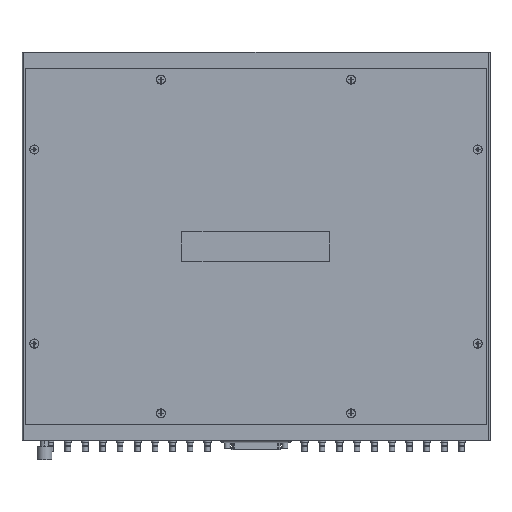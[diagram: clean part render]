
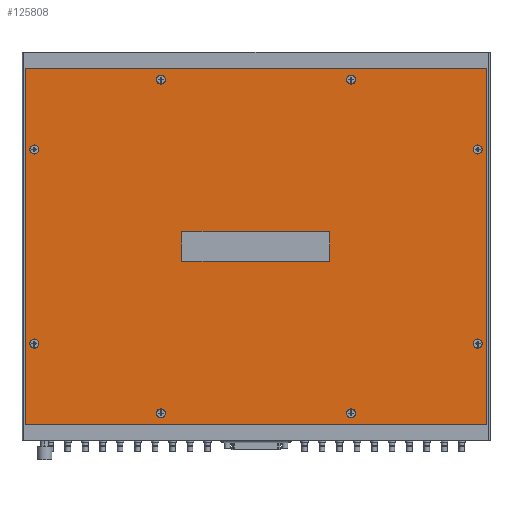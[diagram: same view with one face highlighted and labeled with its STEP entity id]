
A CAD part, front view. The second image highlights one B-rep face of the part: STEP entity #125808.
In plain terms, the highlighted planar face has unit normal (0, -1, 0).
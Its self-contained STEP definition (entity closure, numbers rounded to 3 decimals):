
#44201=DIRECTION('',(0.,0.,-1.));
#44202=VECTOR('',#44201,9.15);
#44203=CARTESIAN_POINT('',(-0.015,-1.71,-0.425));
#44204=LINE('',#44203,#44202);
#44205=DIRECTION('',(-1.,0.,0.));
#44206=VECTOR('',#44205,11.87);
#44207=CARTESIAN_POINT('',(-0.015,-1.71,-9.575));
#44208=LINE('',#44207,#44206);
#44209=DIRECTION('',(0.,0.,1.));
#44210=VECTOR('',#44209,9.15);
#44211=CARTESIAN_POINT('',(-11.885,-1.71,-9.575));
#44212=LINE('',#44211,#44210);
#44213=DIRECTION('',(1.,0.,0.));
#44214=VECTOR('',#44213,11.87);
#44215=CARTESIAN_POINT('',(-11.885,-1.71,-0.425));
#44216=LINE('',#44215,#44214);
#44217=CARTESIAN_POINT('',(-11.663,-1.71,-7.5));
#44218=DIRECTION('',(0.,1.,0.));
#44219=DIRECTION('',(1.,0.,0.));
#44220=AXIS2_PLACEMENT_3D('',#44217,#44218,#44219);
#44222=CARTESIAN_POINT('',(-11.663,-1.71,-7.5));
#44223=DIRECTION('',(0.,1.,0.));
#44224=DIRECTION('',(-1.,0.,0.));
#44225=AXIS2_PLACEMENT_3D('',#44222,#44223,#44224);
#44227=CARTESIAN_POINT('',(-11.663,-1.71,-2.5));
#44228=DIRECTION('',(0.,1.,0.));
#44229=DIRECTION('',(1.,0.,0.));
#44230=AXIS2_PLACEMENT_3D('',#44227,#44228,#44229);
#44232=CARTESIAN_POINT('',(-11.663,-1.71,-2.5));
#44233=DIRECTION('',(0.,1.,0.));
#44234=DIRECTION('',(-1.,0.,0.));
#44235=AXIS2_PLACEMENT_3D('',#44232,#44233,#44234);
#44237=CARTESIAN_POINT('',(-8.4,-1.71,-9.3));
#44238=DIRECTION('',(0.,1.,0.));
#44239=DIRECTION('',(1.,0.,0.));
#44240=AXIS2_PLACEMENT_3D('',#44237,#44238,#44239);
#44242=CARTESIAN_POINT('',(-8.4,-1.71,-9.3));
#44243=DIRECTION('',(0.,1.,0.));
#44244=DIRECTION('',(-1.,0.,0.));
#44245=AXIS2_PLACEMENT_3D('',#44242,#44243,#44244);
#44247=CARTESIAN_POINT('',(-3.5,-1.71,-9.3));
#44248=DIRECTION('',(0.,1.,0.));
#44249=DIRECTION('',(1.,0.,0.));
#44250=AXIS2_PLACEMENT_3D('',#44247,#44248,#44249);
#44252=CARTESIAN_POINT('',(-3.5,-1.71,-9.3));
#44253=DIRECTION('',(0.,1.,0.));
#44254=DIRECTION('',(-1.,0.,0.));
#44255=AXIS2_PLACEMENT_3D('',#44252,#44253,#44254);
#44257=CARTESIAN_POINT('',(-0.238,-1.71,-7.5));
#44258=DIRECTION('',(0.,1.,0.));
#44259=DIRECTION('',(1.,0.,0.));
#44260=AXIS2_PLACEMENT_3D('',#44257,#44258,#44259);
#44262=CARTESIAN_POINT('',(-0.238,-1.71,-7.5));
#44263=DIRECTION('',(0.,1.,0.));
#44264=DIRECTION('',(-1.,0.,0.));
#44265=AXIS2_PLACEMENT_3D('',#44262,#44263,#44264);
#44267=CARTESIAN_POINT('',(-0.238,-1.71,-2.5));
#44268=DIRECTION('',(0.,1.,0.));
#44269=DIRECTION('',(1.,0.,0.));
#44270=AXIS2_PLACEMENT_3D('',#44267,#44268,#44269);
#44272=CARTESIAN_POINT('',(-0.238,-1.71,-2.5));
#44273=DIRECTION('',(0.,1.,0.));
#44274=DIRECTION('',(-1.,0.,0.));
#44275=AXIS2_PLACEMENT_3D('',#44272,#44273,#44274);
#44277=CARTESIAN_POINT('',(-3.5,-1.71,-0.7));
#44278=DIRECTION('',(0.,1.,0.));
#44279=DIRECTION('',(1.,0.,0.));
#44280=AXIS2_PLACEMENT_3D('',#44277,#44278,#44279);
#44282=CARTESIAN_POINT('',(-3.5,-1.71,-0.7));
#44283=DIRECTION('',(0.,1.,0.));
#44284=DIRECTION('',(-1.,0.,0.));
#44285=AXIS2_PLACEMENT_3D('',#44282,#44283,#44284);
#44287=CARTESIAN_POINT('',(-8.4,-1.71,-0.7));
#44288=DIRECTION('',(0.,1.,0.));
#44289=DIRECTION('',(1.,0.,0.));
#44290=AXIS2_PLACEMENT_3D('',#44287,#44288,#44289);
#44292=CARTESIAN_POINT('',(-8.4,-1.71,-0.7));
#44293=DIRECTION('',(0.,1.,0.));
#44294=DIRECTION('',(-1.,0.,0.));
#44295=AXIS2_PLACEMENT_3D('',#44292,#44293,#44294);
#44297=DIRECTION('',(-1.,0.,0.));
#44298=VECTOR('',#44297,3.81);
#44299=CARTESIAN_POINT('',(-4.05,-1.71,-4.625));
#44300=LINE('',#44299,#44298);
#44301=DIRECTION('',(0.,0.,-1.));
#44302=VECTOR('',#44301,0.75);
#44303=CARTESIAN_POINT('',(-7.86,-1.71,-4.625));
#44304=LINE('',#44303,#44302);
#44305=DIRECTION('',(1.,0.,0.));
#44306=VECTOR('',#44305,3.81);
#44307=CARTESIAN_POINT('',(-7.86,-1.71,-5.375));
#44308=LINE('',#44307,#44306);
#44309=DIRECTION('',(0.,0.,1.));
#44310=VECTOR('',#44309,0.75);
#44311=CARTESIAN_POINT('',(-4.05,-1.71,-5.375));
#44312=LINE('',#44311,#44310);
#58777=CARTESIAN_POINT('',(-0.015,-1.71,-0.425));
#58778=CARTESIAN_POINT('',(-0.015,-1.71,-9.575));
#58779=VERTEX_POINT('',#58777);
#58780=VERTEX_POINT('',#58778);
#58781=CARTESIAN_POINT('',(-11.885,-1.71,-9.575));
#58782=VERTEX_POINT('',#58781);
#58783=CARTESIAN_POINT('',(-11.885,-1.71,-0.425));
#58784=VERTEX_POINT('',#58783);
#58817=CARTESIAN_POINT('',(-11.545,-1.71,-7.5));
#58818=CARTESIAN_POINT('',(-11.78,-1.71,-7.5));
#58819=VERTEX_POINT('',#58817);
#58820=VERTEX_POINT('',#58818);
#58821=CARTESIAN_POINT('',(-11.545,-1.71,-2.5));
#58822=CARTESIAN_POINT('',(-11.78,-1.71,-2.5));
#58823=VERTEX_POINT('',#58821);
#58824=VERTEX_POINT('',#58822);
#58825=CARTESIAN_POINT('',(-8.283,-1.71,-9.3));
#58826=CARTESIAN_POINT('',(-8.518,-1.71,-9.3));
#58827=VERTEX_POINT('',#58825);
#58828=VERTEX_POINT('',#58826);
#58829=CARTESIAN_POINT('',(-3.383,-1.71,-9.3));
#58830=CARTESIAN_POINT('',(-3.618,-1.71,-9.3));
#58831=VERTEX_POINT('',#58829);
#58832=VERTEX_POINT('',#58830);
#58833=CARTESIAN_POINT('',(-0.12,-1.71,-7.5));
#58834=CARTESIAN_POINT('',(-0.355,-1.71,-7.5));
#58835=VERTEX_POINT('',#58833);
#58836=VERTEX_POINT('',#58834);
#58837=CARTESIAN_POINT('',(-0.12,-1.71,-2.5));
#58838=CARTESIAN_POINT('',(-0.355,-1.71,-2.5));
#58839=VERTEX_POINT('',#58837);
#58840=VERTEX_POINT('',#58838);
#58841=CARTESIAN_POINT('',(-3.383,-1.71,-0.7));
#58842=CARTESIAN_POINT('',(-3.618,-1.71,-0.7));
#58843=VERTEX_POINT('',#58841);
#58844=VERTEX_POINT('',#58842);
#58845=CARTESIAN_POINT('',(-8.283,-1.71,-0.7));
#58846=CARTESIAN_POINT('',(-8.518,-1.71,-0.7));
#58847=VERTEX_POINT('',#58845);
#58848=VERTEX_POINT('',#58846);
#59657=CARTESIAN_POINT('',(-4.05,-1.71,-4.625));
#59658=CARTESIAN_POINT('',(-7.86,-1.71,-4.625));
#59659=VERTEX_POINT('',#59657);
#59660=VERTEX_POINT('',#59658);
#59661=CARTESIAN_POINT('',(-7.86,-1.71,-5.375));
#59662=VERTEX_POINT('',#59661);
#59663=CARTESIAN_POINT('',(-4.05,-1.71,-5.375));
#59664=VERTEX_POINT('',#59663);
#125738=CARTESIAN_POINT('',(-0.015,-1.71,-0.425));
#125739=DIRECTION('',(0.,1.,0.));
#125740=DIRECTION('',(-1.,0.,0.));
#125741=AXIS2_PLACEMENT_3D('',#125738,#125739,#125740);
#125742=PLANE('',#125741);
#125743=ORIENTED_EDGE('',*,*,#61689,.T.);
#125744=ORIENTED_EDGE('',*,*,#125732,.T.);
#125745=ORIENTED_EDGE('',*,*,#61491,.T.);
#125747=ORIENTED_EDGE('',*,*,#125746,.T.);
#125748=EDGE_LOOP('',(#125743,#125744,#125745,#125747));
#125749=FACE_OUTER_BOUND('',#125748,.F.);
#125751=ORIENTED_EDGE('',*,*,#125750,.F.);
#125753=ORIENTED_EDGE('',*,*,#125752,.F.);
#125754=EDGE_LOOP('',(#125751,#125753));
#125755=FACE_BOUND('',#125754,.F.);
#125757=ORIENTED_EDGE('',*,*,#125756,.F.);
#125759=ORIENTED_EDGE('',*,*,#125758,.F.);
#125760=EDGE_LOOP('',(#125757,#125759));
#125761=FACE_BOUND('',#125760,.F.);
#125763=ORIENTED_EDGE('',*,*,#125762,.F.);
#125765=ORIENTED_EDGE('',*,*,#125764,.F.);
#125766=EDGE_LOOP('',(#125763,#125765));
#125767=FACE_BOUND('',#125766,.F.);
#125769=ORIENTED_EDGE('',*,*,#125768,.F.);
#125771=ORIENTED_EDGE('',*,*,#125770,.F.);
#125772=EDGE_LOOP('',(#125769,#125771));
#125773=FACE_BOUND('',#125772,.F.);
#125775=ORIENTED_EDGE('',*,*,#125774,.F.);
#125777=ORIENTED_EDGE('',*,*,#125776,.F.);
#125778=EDGE_LOOP('',(#125775,#125777));
#125779=FACE_BOUND('',#125778,.F.);
#125781=ORIENTED_EDGE('',*,*,#125780,.F.);
#125783=ORIENTED_EDGE('',*,*,#125782,.F.);
#125784=EDGE_LOOP('',(#125781,#125783));
#125785=FACE_BOUND('',#125784,.F.);
#125787=ORIENTED_EDGE('',*,*,#125786,.F.);
#125789=ORIENTED_EDGE('',*,*,#125788,.F.);
#125790=EDGE_LOOP('',(#125787,#125789));
#125791=FACE_BOUND('',#125790,.F.);
#125793=ORIENTED_EDGE('',*,*,#125792,.F.);
#125795=ORIENTED_EDGE('',*,*,#125794,.F.);
#125796=EDGE_LOOP('',(#125793,#125795));
#125797=FACE_BOUND('',#125796,.F.);
#125799=ORIENTED_EDGE('',*,*,#125798,.T.);
#125801=ORIENTED_EDGE('',*,*,#125800,.T.);
#125803=ORIENTED_EDGE('',*,*,#125802,.T.);
#125805=ORIENTED_EDGE('',*,*,#125804,.T.);
#125806=EDGE_LOOP('',(#125799,#125801,#125803,#125805));
#125807=FACE_BOUND('',#125806,.F.);
#125808=ADVANCED_FACE('',(#125749,#125755,#125761,#125767,#125773,#125779,
#125785,#125791,#125797,#125807),#125742,.F.);
#44221=CIRCLE('',#44220,0.118);
#44226=CIRCLE('',#44225,0.118);
#44231=CIRCLE('',#44230,0.118);
#44236=CIRCLE('',#44235,0.118);
#44241=CIRCLE('',#44240,0.118);
#44246=CIRCLE('',#44245,0.118);
#44251=CIRCLE('',#44250,0.118);
#44256=CIRCLE('',#44255,0.118);
#44261=CIRCLE('',#44260,0.118);
#44266=CIRCLE('',#44265,0.118);
#44271=CIRCLE('',#44270,0.118);
#44276=CIRCLE('',#44275,0.118);
#44281=CIRCLE('',#44280,0.118);
#44286=CIRCLE('',#44285,0.118);
#44291=CIRCLE('',#44290,0.118);
#44296=CIRCLE('',#44295,0.118);
#61491=EDGE_CURVE('',#58782,#58784,#44212,.T.);
#61689=EDGE_CURVE('',#58779,#58780,#44204,.T.);
#125732=EDGE_CURVE('',#58780,#58782,#44208,.T.);
#125746=EDGE_CURVE('',#58784,#58779,#44216,.T.);
#125750=EDGE_CURVE('',#58819,#58820,#44221,.T.);
#125752=EDGE_CURVE('',#58820,#58819,#44226,.T.);
#125756=EDGE_CURVE('',#58823,#58824,#44231,.T.);
#125758=EDGE_CURVE('',#58824,#58823,#44236,.T.);
#125762=EDGE_CURVE('',#58827,#58828,#44241,.T.);
#125764=EDGE_CURVE('',#58828,#58827,#44246,.T.);
#125768=EDGE_CURVE('',#58831,#58832,#44251,.T.);
#125770=EDGE_CURVE('',#58832,#58831,#44256,.T.);
#125774=EDGE_CURVE('',#58835,#58836,#44261,.T.);
#125776=EDGE_CURVE('',#58836,#58835,#44266,.T.);
#125780=EDGE_CURVE('',#58839,#58840,#44271,.T.);
#125782=EDGE_CURVE('',#58840,#58839,#44276,.T.);
#125786=EDGE_CURVE('',#58843,#58844,#44281,.T.);
#125788=EDGE_CURVE('',#58844,#58843,#44286,.T.);
#125792=EDGE_CURVE('',#58847,#58848,#44291,.T.);
#125794=EDGE_CURVE('',#58848,#58847,#44296,.T.);
#125798=EDGE_CURVE('',#59659,#59660,#44300,.T.);
#125800=EDGE_CURVE('',#59660,#59662,#44304,.T.);
#125802=EDGE_CURVE('',#59662,#59664,#44308,.T.);
#125804=EDGE_CURVE('',#59664,#59659,#44312,.T.);
